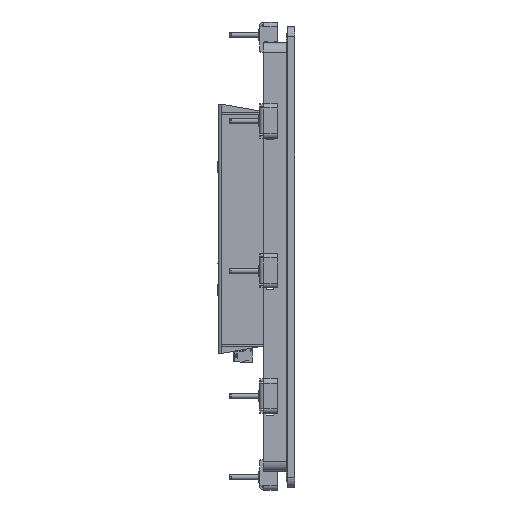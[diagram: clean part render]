
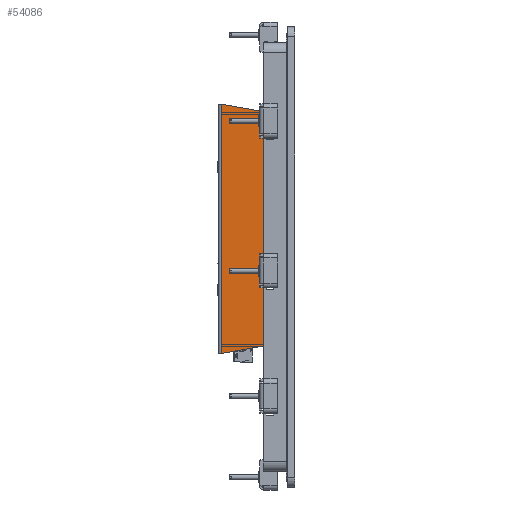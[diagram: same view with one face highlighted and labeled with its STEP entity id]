
A CAD part, front view. The second image highlights one B-rep face of the part: STEP entity #54086.
In plain terms, the highlighted planar face has unit normal (0, -1, 0).
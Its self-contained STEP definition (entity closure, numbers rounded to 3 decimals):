
#54086=ADVANCED_FACE('',(#137551),#137553,.T.);
#137551=FACE_BOUND('',#137552,.T.);
#137552=EDGE_LOOP('',(#201962,#201963,#201964,#201965,#201966,#201967));
#137553=PLANE('',#137554);
#137554=AXIS2_PLACEMENT_3D('',#137555,#137556,#137557);
#137555=CARTESIAN_POINT('',(-174.413,-119.31,23.124));
#137556=DIRECTION('',(0.,-1.,0.));
#137557=DIRECTION('',(1.,0.,0.));
#201962=ORIENTED_EDGE('',*,*,#237358,.F.);
#201963=ORIENTED_EDGE('',*,*,#248627,.T.);
#201964=ORIENTED_EDGE('',*,*,#248628,.T.);
#201965=ORIENTED_EDGE('',*,*,#248629,.T.);
#201966=ORIENTED_EDGE('',*,*,#237362,.F.);
#201967=ORIENTED_EDGE('',*,*,#248630,.T.);
#237358=EDGE_CURVE('',#273153,#273154,#273155,.T.);
#237362=EDGE_CURVE('',#273160,#273162,#273163,.T.);
#248627=EDGE_CURVE('',#273153,#290438,#290439,.T.);
#248628=EDGE_CURVE('',#290438,#290440,#290441,.T.);
#248629=EDGE_CURVE('',#290440,#273162,#290442,.T.);
#248630=EDGE_CURVE('',#273160,#273154,#290443,.T.);
#273153=VERTEX_POINT('',#341359);
#273154=VERTEX_POINT('',#341360);
#273155=LINE('',#341361,#341362);
#273160=VERTEX_POINT('',#341372);
#273162=VERTEX_POINT('',#341376);
#273163=LINE('',#341377,#341378);
#290438=VERTEX_POINT('',#386065);
#290439=LINE('',#386066,#386067);
#290440=VERTEX_POINT('',#386069);
#290441=LINE('',#386070,#386071);
#290442=LINE('',#386073,#386074);
#290443=LINE('',#386076,#386077);
#341359=CARTESIAN_POINT('',(-21.9,-119.31,118.629));
#341360=CARTESIAN_POINT('',(-21.9,-119.31,108.629));
#341361=CARTESIAN_POINT('',(-21.9,-119.31,118.629));
#341362=VECTOR('',#341363,1.);
#341363=DIRECTION('',(0.,0.,-1.));
#341372=CARTESIAN_POINT('',(-21.9,-119.31,-63.309));
#341376=CARTESIAN_POINT('',(-21.9,-119.31,-72.381));
#341377=CARTESIAN_POINT('',(-21.9,-119.31,-63.309));
#341378=VECTOR('',#341379,1.);
#341379=DIRECTION('',(0.,0.,-1.));
#386065=CARTESIAN_POINT('',(-55.9,-119.31,124.624));
#386066=CARTESIAN_POINT('',(-21.9,-119.31,118.629));
#386067=VECTOR('',#386068,1.);
#386068=DIRECTION('',(-0.985,0.,0.174));
#386069=CARTESIAN_POINT('',(-55.9,-119.31,-78.376));
#386070=CARTESIAN_POINT('',(-55.9,-119.31,124.624));
#386071=VECTOR('',#386072,1.);
#386072=DIRECTION('',(0.,0.,-1.));
#386073=CARTESIAN_POINT('',(-55.9,-119.31,-78.376));
#386074=VECTOR('',#386075,1.);
#386075=DIRECTION('',(0.985,0.,0.174));
#386076=CARTESIAN_POINT('',(-21.9,-119.31,-63.309));
#386077=VECTOR('',#386078,1.);
#386078=DIRECTION('',(0.,0.,1.));
